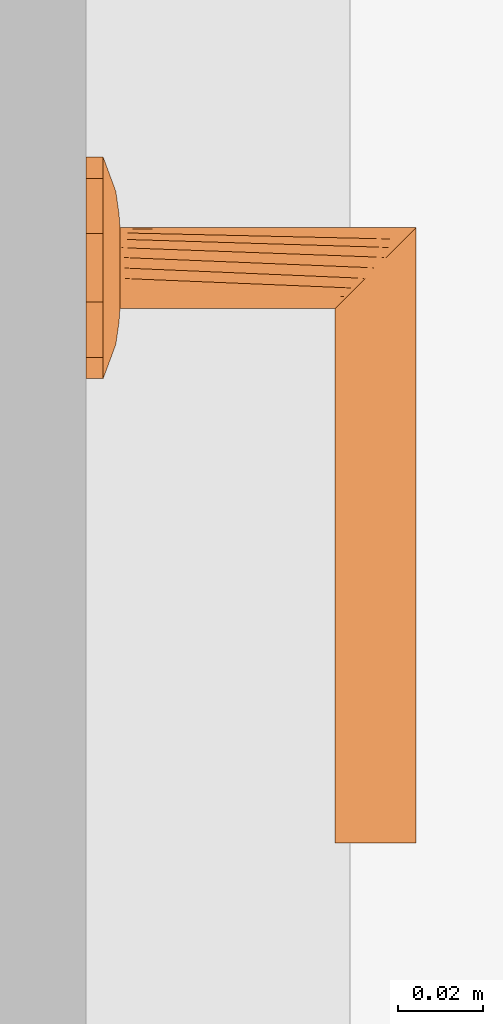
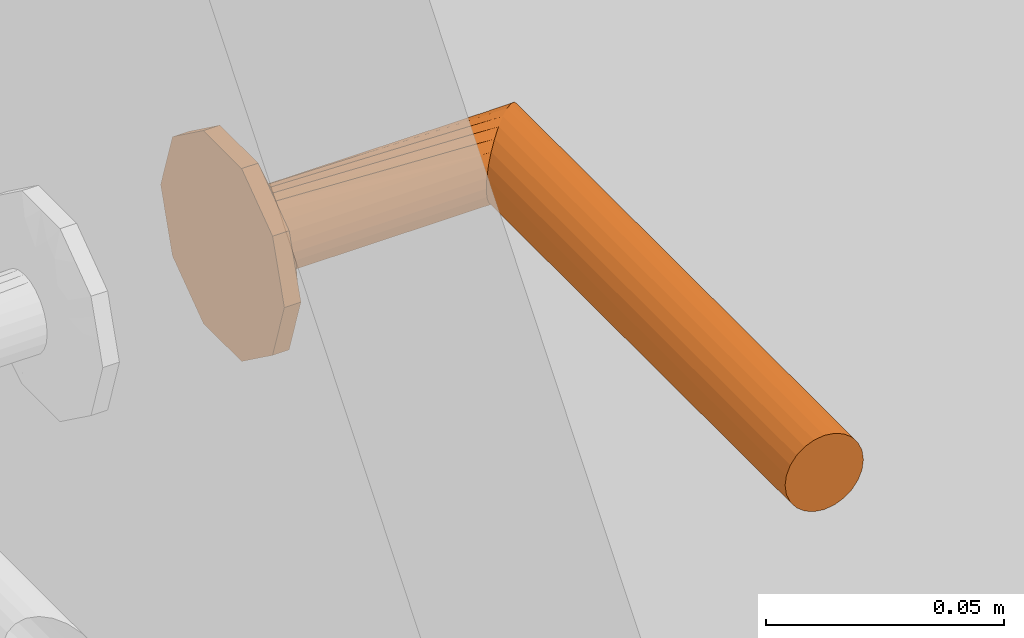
# One storey, part 57 of 68: 1 proxy.
"""IFC2X3 building model written with IfcOpenShell, lengths in millimetres."""

from ifc_helpers import new_model, entity, si_unit, converted_unit, direction, frame, origin, place, context, subcontext, project, spatial, faceted_brep, source, transform, mapped, material, type_object, type_shapes, element, save


model = new_model("IFC2X3")

# Units and contexts
model_context = context("Model", 3, precision=0.01, world=origin(), true_north=direction((6.123233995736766e-17, 1.0)))
plan_context = context("Plan", 3, precision=0.01, world=origin(), true_north=direction((6.123233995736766e-17, 1.0)))
body_context = subcontext(model_context, "Body", "Model", "MODEL_VIEW")
ifc_project = project(units=[si_unit("LENGTHUNIT", "METRE", prefix="MILLI"), converted_unit("PLANEANGLEUNIT", "DEGREE", entity("IfcPlaneAngleMeasure", 0.017453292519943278), si_unit("PLANEANGLEUNIT", "RADIAN"), dimensions=[0, 0, 0, 0, 0, 0, 0]), si_unit("AREAUNIT", "SQUARE_METRE")], contexts=[model_context, plan_context])

# Site, building, storey
site_placement = place(None, origin())
site = spatial("IfcSite", under=ifc_project, at=site_placement, Name="Default", CompositionType="ELEMENT")
building_placement = place(site_placement, origin())
building = spatial("IfcBuilding", under=site, at=building_placement, CompositionType="ELEMENT")
storey_placement = place(building_placement, frame((0.0, 0.0, 6295.0)))
storey = spatial("IfcBuildingStorey", under=building, at=storey_placement, Name="3K", CompositionType="ELEMENT", Elevation=6294.999999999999)

# Proxy
ifc_material = material(Name="<Unnamed>")
building_element_proxy_type = type_object("IfcBuildingElementProxyType", Name="Door-handle_Lever_ABLOY_INOXI_3-19ss-002_RT:Default", PredefinedType="NOTDEFINED", material=ifc_material)
shared_shape = source(origin(), body_context, "Body", "Brep", [
    faceted_brep([(0.0, 0.0, 0.0), (21.034441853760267, -15.282416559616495, 0.0), (14.534441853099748, -20.00494299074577, 0.0), (8.034441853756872, -24.72746942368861, 0.0), (0.0, -24.72746942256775, 0.0), (23.51722092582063, -7.6412082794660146, 0.0), (26.0, 0.0, 0.0), (-8.034441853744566, -24.727469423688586, 0.0), (-14.534441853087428, -20.00494299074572, 0.0), (-21.03444185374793, -15.282416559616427, 0.0), (-23.517220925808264, -7.641208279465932, 0.0), (-26.0, 0.0, 0.0), (-23.517220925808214, 7.641208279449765, 0.0), (23.517220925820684, 7.641208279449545, 0.0), (21.034441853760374, 15.282416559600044, 0.0), (14.53444185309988, 20.00494299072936, 0.0), (8.034441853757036, 24.72746942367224, 0.0), (-21.034441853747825, 15.282416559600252, 0.0), (-14.53444185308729, 20.004942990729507, 0.0), (-8.0344418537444, 24.72746942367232, 0.0), (0.0, 24.72746942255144, 0.0), (0.0, 0.0, 8.0), (4.7500000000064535, -8.227241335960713, 8.0), (5.937500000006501, -6.170431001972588, 8.0), (7.125000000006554, -4.113620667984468, 8.0), (8.312500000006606, -2.0568103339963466, 8.0), (9.500000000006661, 0.0, 8.0), (8.312500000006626, 2.056810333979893, 8.0), (2.3750000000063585, -8.227241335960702, 8.0), (0.0, -8.227241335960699, 8.0), (-2.3749999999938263, -8.227241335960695, 8.0), (-4.749999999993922, -8.227241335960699, 8.0), (-5.937499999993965, -6.170431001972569, 8.0), (-7.124999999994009, -4.113620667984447, 8.0), (-8.312499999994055, -2.056810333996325, 8.0), (-9.499999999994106, 0.0, 8.0), (7.125000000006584, 4.113620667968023, 8.0), (5.937500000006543, 6.170431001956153, 8.0), (4.750000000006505, 8.227241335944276, 8.0), (2.3750000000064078, 8.22724133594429, 8.0), (-8.31249999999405, 2.0568103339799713, 8.0), (-7.12499999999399, 4.113620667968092, 8.0), (-5.9374999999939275, 6.170431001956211, 8.0), (-4.74999999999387, 8.227241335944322, 8.0), (0.0, 8.227241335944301, 8.0), (-2.374999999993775, 8.227241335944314, 8.0), (-22.488765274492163, -10.806469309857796, 4.030771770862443), (-16.663919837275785, -7.932665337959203, 6.877259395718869), (-20.643071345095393, -6.292822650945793, 5.929480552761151), (-12.50457926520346, -5.179566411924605, 7.774932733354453), (-16.764060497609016, -3.820257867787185, 7.1747985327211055), (-9.071726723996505, -10.311606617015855, 7.7520782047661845), (-11.963426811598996, -8.625290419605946, 7.618343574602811), (-11.979136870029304, -13.678312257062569, 6.945778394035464), (5.7585542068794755, -20.96753300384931, 5.871476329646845), (0.0, -24.72746942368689, 4.030771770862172), (8.03444185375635, -24.727469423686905, 4.030771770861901), (16.66391982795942, -7.932665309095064, 6.877259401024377), (22.488765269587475, -10.806469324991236, 4.03077177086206), (20.64307133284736, -6.29282258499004, 5.929480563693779), (14.534441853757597, -20.004942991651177, 4.030771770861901), (9.499431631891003, -18.64368355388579, 6.154325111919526), (-15.783149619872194, -11.991003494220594, 6.50080018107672), (-21.034441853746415, -15.282416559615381, 4.030771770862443), (-14.53444185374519, -20.00494299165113, 4.030771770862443), (-23.012042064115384, 0.0, 5.135401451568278), (-23.943088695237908, -6.330522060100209, 4.030771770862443), (11.96342678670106, -8.62529049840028, 7.618343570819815), (12.504579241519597, -5.179566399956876, 7.774932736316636), (16.764060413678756, -3.8202578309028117, 7.17479855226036), (15.783149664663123, -11.991003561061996, 6.50080015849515), (17.985351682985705, 0.0, 6.993737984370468), (23.012042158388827, 0.0, 5.135401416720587), (8.661516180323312, -10.478936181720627, 7.768126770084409), (-8.03444185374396, -24.727469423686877, 4.030771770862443), (-3.3573143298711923, -21.197247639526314, 5.971427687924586), (-9.941915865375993, -17.061976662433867, 6.522757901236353), (-5.973257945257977, -16.430139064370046, 7.110979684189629), (-7.711266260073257, -12.760344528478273, 7.594456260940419), (11.979136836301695, -13.678312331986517, 6.945778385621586), (7.511307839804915, -13.358932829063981, 7.529187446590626), (5.953298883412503, -16.50608604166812, 7.096344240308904), (-1.5654593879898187, -15.307443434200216, 7.519134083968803), (-7.784980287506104, -20.476295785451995, 5.812837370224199), (2.8135289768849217, -17.76392260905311, 6.993737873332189), (-17.98535168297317, 0.0, 6.993737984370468), (-26.0, 0.0, 4.030771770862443), (-23.51722092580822, -7.641208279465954, 4.030771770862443), (23.943088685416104, -6.33052209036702, 4.030771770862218), (24.308823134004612, -5.204907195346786, 4.030771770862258), (26.0, 0.0, 4.030771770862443), (21.03444185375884, -15.282416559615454, 4.030771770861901), (22.617646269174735, -10.40981439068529, 4.030771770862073), (22.488765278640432, 10.806469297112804, 4.030771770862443), (16.66391984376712, 7.932665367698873, 6.877259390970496), (20.643071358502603, 6.292822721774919, 5.929480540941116), (12.504579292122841, 5.179566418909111, 7.774932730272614), (16.764060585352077, 3.8202579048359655, 7.174798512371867), (9.07172672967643, 10.31160659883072, 7.752078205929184), (11.963426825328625, 8.62529034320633, 7.618343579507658), (11.979136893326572, 13.67831220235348, 6.9457784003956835), (-5.758554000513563, 20.96753314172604, 5.8714763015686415), (0.0, 24.72746942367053, 4.030771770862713), (-8.03444185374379, 24.72746942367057, 4.030771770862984), (-16.663919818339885, 7.932665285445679, 6.877259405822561), (-22.48876526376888, 10.806469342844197, 4.030771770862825), (-20.643071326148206, 6.2928225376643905, 5.929480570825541), (-14.534441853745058, 20.004942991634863, 4.030771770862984), (-9.499431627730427, 18.643683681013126, 6.154325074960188), (15.783149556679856, 11.991003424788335, 6.5008002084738), (21.03444185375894, 15.282416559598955, 4.030771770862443), (14.534441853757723, 20.004942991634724, 4.030771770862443), (23.943088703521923, 6.330522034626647, 4.030771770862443), (-11.96342675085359, 8.625290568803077, 7.618343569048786), (-12.504579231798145, 5.179566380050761, 7.77493273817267), (-16.764060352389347, 3.820257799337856, 7.174798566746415), (-15.78314967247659, 11.991003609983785, 6.500800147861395), (-8.661516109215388, 10.478936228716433, 7.768126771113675), (8.034441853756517, 24.727469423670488, 4.030771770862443), (3.3573144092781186, 21.197247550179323, 5.971427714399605), (9.941915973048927, 17.061976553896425, 6.522757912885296), (5.9732581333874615, 16.430139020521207, 7.110979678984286), (7.711266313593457, 12.760344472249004, 7.5944562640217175), (-11.979136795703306, 13.678312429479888, 6.945778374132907), (-7.511307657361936, 13.358932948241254, 7.5291874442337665), (-5.9532988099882, 16.50608628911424, 7.096344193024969), (1.5654596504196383, 15.3074431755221, 7.519134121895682), (7.784980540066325, 20.476295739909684, 5.812837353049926), (-2.81352881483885, 17.76392263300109, 6.993737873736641), (23.51722092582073, 7.6412082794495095, 4.030771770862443), (-23.94308867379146, 6.330522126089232, 4.030771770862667), (-24.308823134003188, 5.20490719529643, 4.030771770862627), (-21.034441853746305, 15.282416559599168, 4.030771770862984), (-22.617646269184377, 10.409814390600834, 4.0307717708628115)], [[[0, 1, 2]], [[0, 2, 3]], [[0, 3, 4]], [[0, 5, 1]], [[0, 6, 5]], [[0, 4, 7]], [[0, 7, 8]], [[0, 8, 9]], [[0, 9, 10]], [[0, 10, 11]], [[0, 11, 12]], [[0, 13, 6]], [[0, 14, 13]], [[0, 15, 14]], [[0, 16, 15]], [[0, 12, 17]], [[0, 17, 18]], [[0, 18, 19]], [[0, 19, 20]], [[0, 20, 16]], [[21, 22, 23]], [[21, 23, 24]], [[21, 24, 25]], [[21, 25, 26]], [[21, 26, 27]], [[21, 28, 22]], [[21, 29, 28]], [[21, 30, 29]], [[21, 31, 30]], [[21, 32, 31]], [[21, 33, 32]], [[21, 34, 33]], [[21, 35, 34]], [[21, 27, 36]], [[21, 36, 37]], [[21, 37, 38]], [[21, 38, 39]], [[21, 40, 35]], [[21, 41, 40]], [[21, 42, 41]], [[21, 43, 42]], [[21, 39, 44]], [[21, 44, 45]], [[21, 45, 43]], [[46, 47, 48]], [[47, 49, 50]], [[49, 33, 34]], [[51, 52, 53]], [[49, 52, 33]], [[48, 47, 50]], [[54, 55, 56]], [[57, 58, 59]], [[56, 60, 61]], [[62, 63, 64]], [[65, 66, 48]], [[67, 57, 68]], [[68, 69, 25]], [[57, 67, 70]], [[69, 26, 25]], [[62, 53, 52]], [[71, 69, 72]], [[67, 23, 73]], [[74, 55, 75]], [[76, 77, 78]], [[79, 60, 70]], [[69, 59, 72]], [[80, 81, 61]], [[77, 30, 78]], [[82, 30, 77]], [[28, 80, 22]], [[77, 83, 75]], [[75, 82, 77]], [[55, 84, 75]], [[85, 50, 35]], [[24, 68, 25]], [[82, 84, 29]], [[84, 82, 75]], [[31, 78, 30]], [[82, 29, 30]], [[34, 35, 50]], [[52, 49, 47]], [[62, 52, 47]], [[34, 50, 49]], [[53, 78, 51]], [[32, 33, 52]], [[85, 65, 50]], [[66, 65, 86]], [[67, 68, 24]], [[77, 76, 83]], [[65, 48, 50]], [[63, 62, 46]], [[48, 66, 87, 46]], [[62, 47, 46]], [[69, 68, 57]], [[80, 73, 22]], [[70, 67, 79]], [[67, 24, 23]], [[72, 88, 89, 90]], [[69, 71, 26]], [[59, 69, 57]], [[61, 60, 79]], [[62, 64, 53]], [[91, 58, 70]], [[72, 59, 88]], [[57, 70, 58]], [[59, 58, 92]], [[80, 61, 79]], [[91, 70, 60]], [[61, 81, 54]], [[73, 80, 79]], [[28, 84, 81]], [[67, 73, 79]], [[29, 84, 28]], [[22, 73, 23]], [[51, 31, 32]], [[76, 78, 53]], [[53, 64, 76]], [[83, 64, 74]], [[64, 83, 76]], [[75, 83, 74]], [[31, 51, 78]], [[52, 51, 32]], [[28, 81, 80]], [[54, 81, 84]], [[55, 54, 84]], [[61, 54, 56]], [[93, 94, 95]], [[94, 96, 97]], [[96, 36, 27]], [[98, 99, 100]], [[96, 99, 36]], [[95, 94, 97]], [[101, 102, 103]], [[104, 105, 106]], [[103, 107, 108]], [[109, 110, 111]], [[72, 112, 95]], [[113, 104, 114]], [[114, 115, 40]], [[104, 113, 116]], [[115, 35, 40]], [[109, 100, 99]], [[85, 115, 65]], [[113, 42, 117]], [[118, 102, 119]], [[120, 121, 122]], [[123, 107, 116]], [[115, 106, 65]], [[124, 125, 108]], [[121, 39, 122]], [[126, 39, 121]], [[45, 124, 43]], [[121, 127, 119]], [[119, 126, 121]], [[102, 128, 119]], [[71, 97, 26]], [[41, 114, 40]], [[126, 128, 44]], [[128, 126, 119]], [[38, 122, 39]], [[126, 44, 39]], [[27, 26, 97]], [[99, 96, 94]], [[109, 99, 94]], [[27, 97, 96]], [[100, 122, 98]], [[37, 36, 99]], [[71, 72, 97]], [[112, 72, 90]], [[113, 114, 41]], [[121, 120, 127]], [[72, 95, 97]], [[110, 109, 93]], [[95, 112, 129, 93]], [[109, 94, 93]], [[115, 114, 104]], [[124, 117, 43]], [[116, 113, 123]], [[113, 41, 42]], [[65, 130, 131, 86]], [[115, 85, 35]], [[106, 115, 104]], [[108, 107, 123]], [[109, 111, 100]], [[132, 105, 116]], [[65, 106, 130]], [[104, 116, 105]], [[106, 105, 133]], [[124, 108, 123]], [[132, 116, 107]], [[108, 125, 101]], [[117, 124, 123]], [[45, 128, 125]], [[113, 117, 123]], [[44, 128, 45]], [[43, 117, 42]], [[98, 38, 37]], [[120, 122, 100]], [[100, 111, 120]], [[127, 111, 118]], [[111, 127, 120]], [[119, 127, 118]], [[38, 98, 122]], [[99, 98, 37]], [[45, 125, 124]], [[101, 125, 128]], [[102, 101, 128]], [[108, 101, 103]], [[7, 74, 64, 63, 9, 8]], [[10, 9, 63, 46, 87, 66, 86, 11]], [[6, 90, 89, 88, 92, 1, 5]], [[1, 58, 91]], [[74, 7, 4, 3, 56, 55]], [[60, 56, 3, 2, 1, 91]], [[1, 92, 58]], [[14, 110, 93, 129, 112, 90, 6, 13]], [[111, 110, 14, 15, 16, 118]], [[11, 86, 131, 130, 133, 17, 12]], [[17, 105, 132]], [[118, 16, 20, 19, 103, 102]], [[107, 103, 19, 18, 17, 132]], [[17, 133, 105]], [[59, 92, 88]], [[106, 133, 130]]]),
    faceted_brep([(4.7499999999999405, -8.22724133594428, 8.0), (2.4587809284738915, -9.176295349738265, 8.0), (0.0, -9.499999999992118, 8.0), (-2.4587809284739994, -9.176295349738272, 8.0), (-4.7500000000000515, -8.227241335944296, 8.0), (-6.717514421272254, -6.717514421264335, 8.0), (-8.227241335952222, -4.74999999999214, 8.0), (-9.176295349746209, -2.4587809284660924, 8.0), (-9.500000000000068, 0.0, 8.0), (-9.176295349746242, 2.458780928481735, 8.0), (-8.227241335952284, 4.750000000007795, 8.0), (-6.717514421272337, 6.717514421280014, 8.0), (-4.750000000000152, 8.227241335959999, 8.0), (-2.4587809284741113, 9.176295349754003, 8.0), (0.0, 9.500000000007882, 8.0), (2.4587809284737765, 9.176295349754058, 8.0), (4.7499999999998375, 8.227241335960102, 8.0), (6.717514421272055, 6.717514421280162, 8.0), (8.22724133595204, 4.75000000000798, 8.0), (9.17629534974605, 2.458780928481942, 8.0), (9.499999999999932, 0.0, 8.0), (9.17629534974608, -2.458780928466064, 8.0), (8.227241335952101, -4.749999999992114, 8.0), (6.717514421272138, -6.7175144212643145, 8.0), (-8.227241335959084, 4.7499999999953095, 59.772758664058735), (-6.717514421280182, 6.7175144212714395, 61.282485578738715), (-9.176295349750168, 2.458780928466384, 58.82370465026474), (-4.750000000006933, 8.227241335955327, 63.25000000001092), (-2.4587809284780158, 9.176295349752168, 65.54121907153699), (-9.500000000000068, 0.0, 58.50000000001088), (0.0, 9.50000000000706, 68.0), (4.750000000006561, 8.227241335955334, 72.75000000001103), (2.4587809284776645, 9.17629534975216, 70.45878092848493), (6.717514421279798, 6.7175144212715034, 74.71751442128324), (8.22724133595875, 4.749999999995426, 76.22724133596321), (9.17629534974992, 2.458780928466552, 77.17629534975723), (9.499999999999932, 0.0, 77.50000000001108), (9.176295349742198, -2.4587809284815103, 77.1762953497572), (8.227241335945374, -4.750000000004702, 76.22724133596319), (6.7175144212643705, -6.717514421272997, 74.7175144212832), (4.749999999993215, -8.227241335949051, 72.75000000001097), (2.4587809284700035, -9.17629534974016, 70.45878092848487), (0.0, -9.49999999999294, 68.0), (-2.4587809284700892, -9.176295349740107, 65.54121907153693), (-4.749999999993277, -8.227241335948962, 63.250000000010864), (-6.717514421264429, -6.717514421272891, 61.282485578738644), (-9.176295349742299, -2.458780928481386, 58.8237046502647), (-8.227241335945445, -4.750000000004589, 59.77275866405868), (-135.0, -9.176295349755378, 70.4587809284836), (-135.0, -8.227241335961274, 72.75000000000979), (-135.0, -6.717514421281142, 74.71751442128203), (-135.0, -4.750000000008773, 76.22724133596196), (-135.0, -2.4587809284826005, 77.17629534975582), (-135.0, 0.0, 77.5000000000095), (-135.0, 2.4587809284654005, 77.17629534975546), (-135.0, 4.749999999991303, 76.22724133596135), (-135.0, 6.717514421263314, 74.71751442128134), (-135.0, 8.227241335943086, 72.75000000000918), (-135.0, 9.17629534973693, 70.45878092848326), (-135.0, 9.499999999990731, 68.0), (-135.0, 9.17629534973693, 65.54121907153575), (-135.0, 8.227241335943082, 63.250000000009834), (-135.0, 6.717514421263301, 61.28248557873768), (-135.0, 4.749999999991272, 59.772758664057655), (-135.0, 2.458780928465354, 58.823704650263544), (-135.0, 0.0, 58.50000000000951), (-135.0, -2.458780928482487, 58.82370465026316), (-135.0, -4.750000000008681, 59.772758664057), (-135.0, -6.7175144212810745, 61.28248557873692), (-135.0, -8.227241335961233, 63.25000000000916), (-135.0, -9.176295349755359, 65.54121907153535), (-135.0, -9.500000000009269, 68.0)], [[[0, 1, 2, 3, 4, 5, 6, 7, 8, 9, 10, 11, 12, 13, 14, 15, 16, 17, 18, 19, 20, 21, 22, 23]], [[24, 25, 11, 10]], [[26, 24, 10, 9]], [[14, 27, 28]], [[13, 27, 14]], [[25, 27, 13]], [[29, 26, 9, 8]], [[12, 11, 25]], [[25, 13, 12]], [[28, 30, 15]], [[31, 17, 32]], [[33, 18, 31]], [[19, 34, 35]], [[33, 34, 19]], [[20, 19, 35, 36]], [[16, 15, 30]], [[14, 28, 15]], [[19, 18, 33]], [[17, 31, 18]], [[17, 16, 32]], [[30, 32, 16]], [[20, 36, 37, 21]], [[38, 21, 37]], [[22, 39, 40]], [[38, 39, 21]], [[23, 40, 41]], [[39, 22, 21]], [[1, 42, 43]], [[42, 1, 0]], [[23, 41, 0]], [[23, 22, 40]], [[41, 42, 0]], [[44, 45, 3]], [[43, 44, 2]], [[46, 29, 8, 7]], [[47, 46, 7, 6]], [[45, 47, 6, 5]], [[45, 4, 3]], [[3, 2, 44]], [[5, 4, 45]], [[43, 2, 1]], [[48, 49, 50, 51, 52, 53, 54, 55, 56, 57, 58, 59, 60, 61, 62, 63, 64, 65, 66, 67, 68, 69, 70, 71]], [[64, 63, 24, 26]], [[65, 64, 26, 29]], [[61, 60, 28, 27]], [[62, 61, 27, 25]], [[63, 62, 25, 24]], [[59, 30, 28, 60]], [[57, 56, 33, 31]], [[58, 57, 31, 32]], [[54, 53, 36, 35]], [[55, 54, 35, 34]], [[56, 55, 34, 33]], [[32, 30, 59, 58]], [[52, 51, 38, 37]], [[53, 52, 37, 36]], [[49, 48, 41, 40]], [[50, 49, 40, 39]], [[51, 50, 39, 38]], [[42, 41, 48, 71]], [[69, 68, 45, 44]], [[70, 69, 44, 43]], [[66, 65, 29, 46]], [[67, 66, 46, 47]], [[68, 67, 47, 45]], [[42, 71, 70, 43]]]),
])
type_shapes(building_element_proxy_type, [shared_shape])
proxy_placement = place(storey_placement, frame((13518.0, 3149.9999594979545, 1000.0), z_axis=(1.0, 0.0, 0.0), x_axis=(0.0, 1.0, 0.0)))
element("IfcBuildingElementProxy", 1, at=proxy_placement, inside=storey, type_object=building_element_proxy_type, material=ifc_material, Name="Door-handle_Lever_ABLOY_INOXI_3-19ss-002_RT:Default", ObjectType="Door-handle_Lever_ABLOY_INOXI_3-19ss-002_RT:Default", context=body_context, shape_type="MappedRepresentation", body=[
    mapped(shared_shape, transform((0.0, 0.0, 0.0), scale=1.0)),
])

save(model, "model.ifc")
